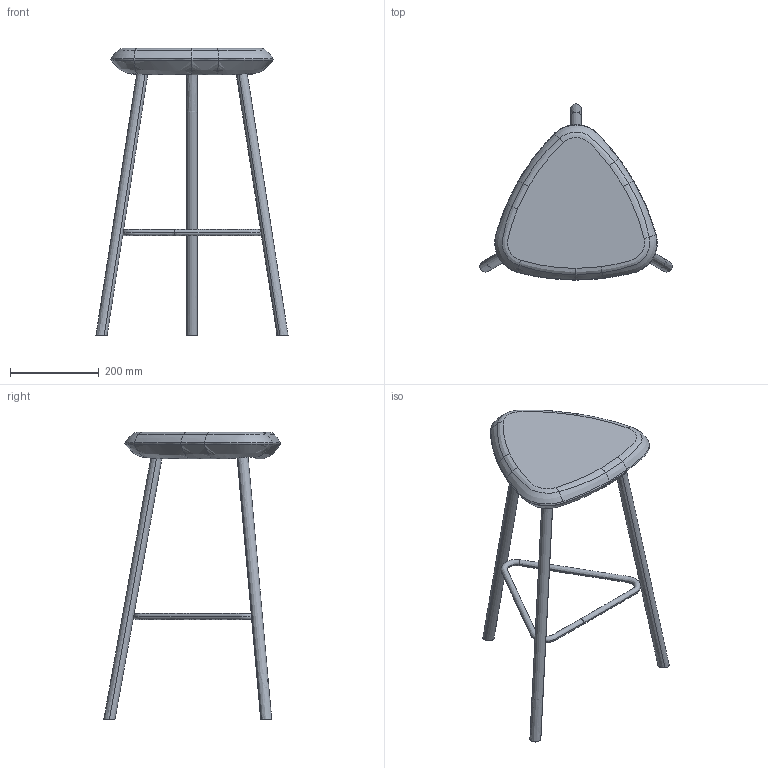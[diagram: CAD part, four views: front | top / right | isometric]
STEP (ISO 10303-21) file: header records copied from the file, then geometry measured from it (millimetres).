
FILE_DESCRIPTION(/* description */ (''),/* implementation_level */ '2;1');
FILE_NAME(/* name */ 'Pick base metallo h65',/* time_stamp */ '2016-11-10T12:14:39+01:00',/* author */ (''),/* organization */ (''),/* preprocessor_version */ 'ST-DEVELOPER v10',/* originating_system */ '',/* authorisation */ '');
FILE_SCHEMA (('CONFIG_CONTROL_DESIGN'));
Length unit declared in the file: millimetre
Products named in the file (1): 1
Bounding box: 434.38 x 398.68 x 649 mm (x, y, z)
Volume: 4952541.7 mm3; surface area: 511089.7 mm2
Topology: 6 solids, 6 shells, 75 faces, 155 edges, 90 vertices
Faces by surface type: bspline 64, plane 11
Entity records: 24764 total; most frequent: CARTESIAN_POINT 23792, ORIENTED_EDGE 310, EDGE_CURVE 155, VERTEX_POINT 90, ADVANCED_FACE 75, FACE_OUTER_BOUND 75, EDGE_LOOP 75, B_SPLINE_CURVE_WITH_KNOTS 50
